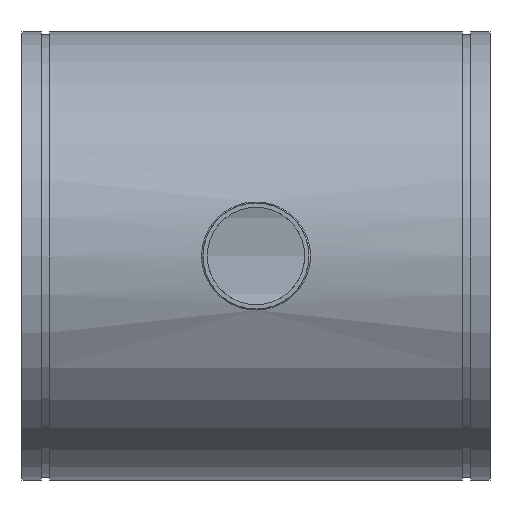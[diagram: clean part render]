
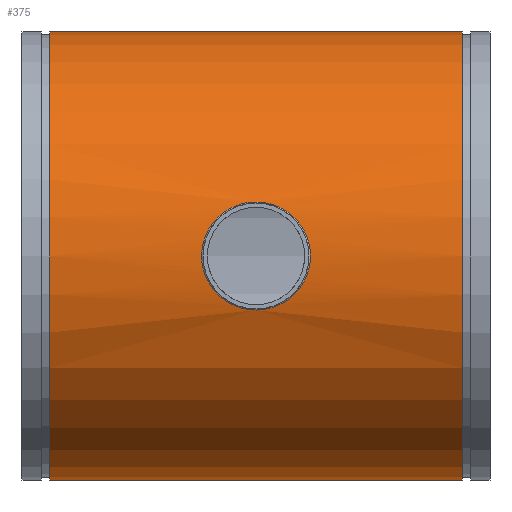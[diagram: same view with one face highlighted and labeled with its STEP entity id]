
A CAD part, front view. The second image highlights one B-rep face of the part: STEP entity #375.
In plain terms, the highlighted cylindrical face has radius 486.41 mm (diameter 972.82 mm), a full revolution.
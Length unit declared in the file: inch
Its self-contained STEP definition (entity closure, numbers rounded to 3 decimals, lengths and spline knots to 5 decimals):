
#54=FACE_BOUND('',#119,.T.);
#65=LINE('',#798,#76);
#76=VECTOR('',#483,19.15);
#87=CYLINDRICAL_SURFACE('',#415,19.15);
#98=FACE_OUTER_BOUND('',#118,.T.);
#118=EDGE_LOOP('',(#266,#267,#268,#269));
#119=EDGE_LOOP('',(#270));
#150=B_SPLINE_CURVE_WITH_KNOTS('',3,(#769,#770,#771,#772,#773,#774,#775,
#776,#777,#778,#779,#780,#781,#782,#783,#784,#785,#786,#787,#788,#789,#790,
#791,#792,#793),.UNSPECIFIED.,.T.,.F.,(4,1,1,1,1,1,1,1,1,1,1,1,1,1,1,1,
1,1,1,1,1,1,4),(-69.55526,-67.07114,-64.58703,-59.6188,
-56.30664,-52.99448,-49.68233,-46.37017,-43.05802,
-39.74586,-36.43371,-33.12155,-29.8094,
-26.49724,-23.18509,-19.87293,-18.21685,
-16.56078,-13.24862,-9.93647,-4.96823,
-2.48412,0.),.UNSPECIFIED.);
#154=CIRCLE('',#416,19.15);
#155=CIRCLE('',#417,19.15);
#182=VERTEX_POINT('',#736);
#185=VERTEX_POINT('',#795);
#186=VERTEX_POINT('',#797);
#219=EDGE_CURVE('',#182,#182,#150,.T.);
#220=EDGE_CURVE('',#185,#185,#154,.T.);
#221=EDGE_CURVE('',#185,#186,#65,.T.);
#222=EDGE_CURVE('',#186,#186,#155,.T.);
#266=ORIENTED_EDGE('',*,*,#220,.T.);
#267=ORIENTED_EDGE('',*,*,#221,.T.);
#268=ORIENTED_EDGE('',*,*,#222,.T.);
#269=ORIENTED_EDGE('',*,*,#221,.F.);
#270=ORIENTED_EDGE('',*,*,#219,.F.);
#375=ADVANCED_FACE('',(#98,#54),#87,.T.);
#415=AXIS2_PLACEMENT_3D('',#794,#479,#480);
#416=AXIS2_PLACEMENT_3D('',#796,#481,#482);
#417=AXIS2_PLACEMENT_3D('',#799,#484,#485);
#479=DIRECTION('center_axis',(-1.,0.,0.));
#480=DIRECTION('ref_axis',(0.,-1.,0.));
#481=DIRECTION('center_axis',(1.,0.,0.));
#482=DIRECTION('ref_axis',(0.,-1.,0.));
#483=DIRECTION('',(1.,0.,0.));
#484=DIRECTION('center_axis',(-1.,0.,0.));
#485=DIRECTION('ref_axis',(0.,-1.,0.));
#736=CARTESIAN_POINT('',(0.,-18.58439,-4.61984));
#769=CARTESIAN_POINT('Ctrl Pts',(0.,-18.58439,
-4.61984));
#770=CARTESIAN_POINT('Ctrl Pts',(0.34911,-18.58439,-4.61984));
#771=CARTESIAN_POINT('Ctrl Pts',(1.04705,-18.60422,-4.54112));
#772=CARTESIAN_POINT('Ctrl Pts',(2.36996,-18.71401,-4.08049));
#773=CARTESIAN_POINT('Ctrl Pts',(3.57134,-18.91047,-3.12698));
#774=CARTESIAN_POINT('Ctrl Pts',(4.39148,-19.08779,-1.71827));
#775=CARTESIAN_POINT('Ctrl Pts',(4.70742,-19.16398,-0.35223));
#776=CARTESIAN_POINT('Ctrl Pts',(4.60097,-19.13778,1.04789));
#777=CARTESIAN_POINT('Ctrl Pts',(4.08486,-19.01843,2.34873));
#778=CARTESIAN_POINT('Ctrl Pts',(3.21033,-18.84725,3.43666));
#779=CARTESIAN_POINT('Ctrl Pts',(2.0527,-18.68194,4.22247));
#780=CARTESIAN_POINT('Ctrl Pts',(0.7067,-18.58022,4.63705));
#781=CARTESIAN_POINT('Ctrl Pts',(-0.7067,-18.58021,4.63704));
#782=CARTESIAN_POINT('Ctrl Pts',(-2.0527,-18.68197,4.22247));
#783=CARTESIAN_POINT('Ctrl Pts',(-3.21037,-18.84723,3.4366));
#784=CARTESIAN_POINT('Ctrl Pts',(-4.08487,-19.01847,2.34878));
#785=CARTESIAN_POINT('Ctrl Pts',(-4.51498,-19.11784,1.26462));
#786=CARTESIAN_POINT('Ctrl Pts',(-4.65421,-19.15095,0.34788));
#787=CARTESIAN_POINT('Ctrl Pts',(-4.65471,-19.15122,-0.57995));
#788=CARTESIAN_POINT('Ctrl Pts',(-4.3915,-19.08783,-1.71824));
#789=CARTESIAN_POINT('Ctrl Pts',(-3.57129,-18.91044,-3.12704));
#790=CARTESIAN_POINT('Ctrl Pts',(-2.36996,-18.71402,-4.08049));
#791=CARTESIAN_POINT('Ctrl Pts',(-1.04705,-18.60422,-4.54112));
#792=CARTESIAN_POINT('Ctrl Pts',(-0.34911,-18.58439,-4.61984));
#793=CARTESIAN_POINT('Ctrl Pts',(0.,-18.58439,
-4.61984));
#794=CARTESIAN_POINT('Origin',(20.,0.,0.));
#795=CARTESIAN_POINT('',(-17.625,19.15,0.));
#796=CARTESIAN_POINT('Origin',(-17.625,0.,0.));
#797=CARTESIAN_POINT('',(17.625,19.15,0.));
#798=CARTESIAN_POINT('',(20.,19.15,0.));
#799=CARTESIAN_POINT('Origin',(17.625,0.,0.));
